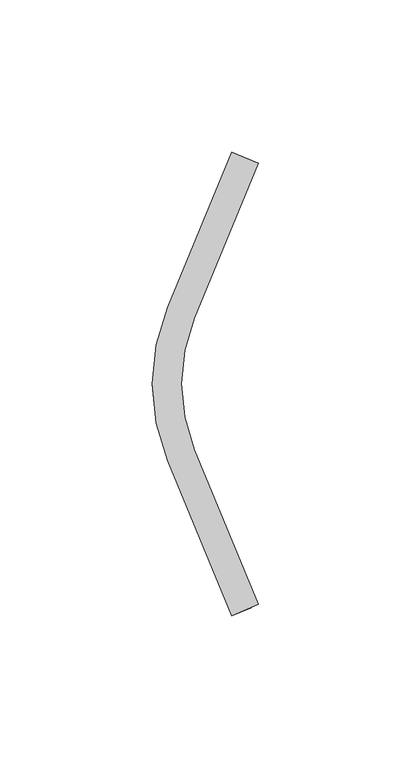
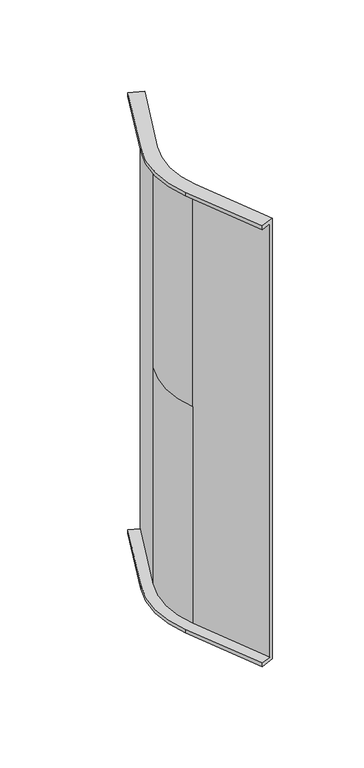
"""IFC4 building model written with IfcOpenShell, lengths in millimetres: cable carrier fitting geometry, CCT_Hyperline_FBTR-IRS45-CVR Крышка на вертикальный угол 45° внутренний (вверх) для оптического лотка : Крышка на вертикальный угол 45° внутренний (вверх) для оптического лотка."""

from ifc_helpers import new_model, si_unit, frame, origin, place, context, project, spatial, polyline, circle_curve, source, transform, mapped, element, save
from ifc_brep_helpers import plane_surface, cylinder_surface, revolved_surface, advanced_brep


def cable_carrier_fitting_ac56a8e3(model_context):
    return source(origin(), model_context, "Body", "AdvancedBrep", [
        advanced_brep(
        [(117.653346, 73.3916968, 150.0), (111.1861893, 76.0704808, 150.0), (111.1861893, 76.0704808, 152.54), (120.0, 72.4196809, 152.54), (120.0, 72.4196809, -152.54), (111.1861893, 76.0704808, -152.54), (111.1861893, 76.0704808, -150.0), (117.653346, 73.3916968, -150.0), (90.1386005, 25.2571065, -150.0), (90.1386005, -25.2571065, -150.0), (111.1861893, -76.0704808, -150.0), (117.653346, -73.3916968, -150.0), (96.6057572, -22.5783225, -150.0), (96.6057572, 22.5783225, -150.0), (90.1386005, 25.2571065, -152.54), (98.9524112, 21.6063066, -152.54), (98.9524112, -21.6063066, -152.54), (120.0, -72.4196809, -152.54), (111.1861893, -76.0704808, -152.54), (90.1386005, -25.2571065, -152.54), (98.9524112, 21.6063066, 152.54), (98.9524112, 21.6063066, 0.0), (96.6057572, 22.5783225, 0.0), (96.6057572, 22.5783225, 150.0), (120.0, -72.4196809, 152.54), (111.1861893, -76.0704808, 152.54), (111.1861893, -76.0704808, 150.0), (117.653346, -73.3916968, 150.0), (98.9524112, -21.6063066, 0.0), (96.6057572, -22.5783225, 0.0), (98.9524112, -21.6063066, 152.54), (96.6057572, -22.5783225, 150.0), (90.1386005, -25.2571065, 150.0), (90.1386005, 25.2571065, 150.0), (90.1386005, 25.2571065, 152.54), (90.1386005, -25.2571065, 152.54)],
        [
            (0, 1),
            (1, 2),
            (2, 3),
            (3, 4),
            (4, 5),
            (5, 6),
            (6, 7),
            (7, 0),
            (6, 8),
            (8, 9, circle_curve(frame((151.1146496, 0.0, -150.0), z_axis=(0.0, 0.0, 1.0), x_axis=(-0.9238795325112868, 0.38268343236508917, 0.0)), 66.0)),
            (9, 10),
            (10, 11),
            (11, 12),
            (12, 13, circle_curve(frame((151.1146496, 0.0, -150.0), z_axis=(0.0, 0.0, -1.0), x_axis=(-0.9238795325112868, 0.38268343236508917, 0.0)), 59.0)),
            (13, 7),
            (5, 14),
            (14, 8),
            (4, 15),
            (15, 16, circle_curve(frame((151.1146496, 0.0, -152.54), z_axis=(0.0, 0.0, 1.0), x_axis=(-0.9238795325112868, 0.38268343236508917, 0.0)), 56.46)),
            (16, 17),
            (17, 18),
            (18, 19),
            (19, 14, circle_curve(frame((151.1146496, 0.0, -152.54), z_axis=(0.0, 0.0, -1.0), x_axis=(-0.9238795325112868, 0.38268343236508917, 0.0)), 66.0)),
            (3, 20),
            (20, 21),
            (21, 15),
            (13, 22),
            (22, 23),
            (23, 0),
            (10, 18),
            (17, 24),
            (24, 25),
            (25, 26),
            (26, 27),
            (27, 11),
            (19, 9),
            (21, 28, circle_curve(frame((151.1146496, 0.0, 0.0), z_axis=(0.0, 0.0, 1.0), x_axis=(-0.9238795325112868, 0.38268343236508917, 0.0)), 56.46)),
            (28, 16),
            (12, 29),
            (29, 22, circle_curve(frame((151.1146496, 0.0, 0.0), z_axis=(0.0, 0.0, -1.0), x_axis=(-0.9238795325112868, 0.38268343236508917, 0.0)), 59.0)),
            (28, 30),
            (30, 24),
            (27, 31),
            (31, 29),
            (23, 31, circle_curve(frame((151.1146496, 0.0, 150.0), z_axis=(0.0, 0.0, 1.0), x_axis=(-0.9238795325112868, 0.38268343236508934, 0.0)), 59.0)),
            (26, 32),
            (32, 33, circle_curve(frame((151.1146496, 0.0, 150.0), z_axis=(0.0, 0.0, -1.0), x_axis=(-0.9238795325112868, 0.38268343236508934, 0.0)), 66.0)),
            (33, 1),
            (33, 34),
            (34, 2),
            (34, 35, circle_curve(frame((151.1146496, 0.0, 152.54), z_axis=(0.0, 0.0, 1.0), x_axis=(-0.9238795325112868, 0.38268343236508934, 0.0)), 66.0)),
            (35, 25),
            (30, 20, circle_curve(frame((151.1146496, 0.0, 152.54), z_axis=(0.0, 0.0, -1.0), x_axis=(-0.9238795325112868, 0.38268343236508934, 0.0)), 56.46)),
            (32, 35),
        ],
        [
            plane_surface(frame((115.8055869, 74.1570637, -55.0), z_axis=(0.38268343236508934, 0.923879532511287, 0.0), x_axis=(0.0, 0.0, 1.0))),
            plane_surface(frame((111.1861893, 76.0704808, -150.0), z_axis=(0.0, 0.0, 1.0), x_axis=(-0.3826834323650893, -0.923879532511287, 0.0))),
            plane_surface(frame((111.1861893, 76.0704808, -152.54), z_axis=(-0.923879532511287, 0.38268343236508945, 0.0), x_axis=(-0.38268343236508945, -0.923879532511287, 0.0))),
            plane_surface(frame((120.0, 72.4196809, -152.54), z_axis=(0.0, 0.0, -1.0), x_axis=(-0.3826834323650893, -0.923879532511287, 0.0))),
            plane_surface(frame((120.0, 72.4196809, 0.0), z_axis=(0.923879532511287, -0.3826834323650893, 0.0), x_axis=(-0.3826834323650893, -0.923879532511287, 0.0))),
            plane_surface(frame((117.653346, 73.3916968, -150.0), z_axis=(-0.923879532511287, 0.3826834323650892, 0.0), x_axis=(-0.3826834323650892, -0.923879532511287, 0.0))),
            plane_surface(frame((115.8055869, -74.1570637, -55.0), z_axis=(0.38268343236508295, -0.9238795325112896, 0.0), x_axis=(0.0, 0.0, 1.0))),
            cylinder_surface(frame((151.1146496, 0.0, -55.0), z_axis=(0.0, 0.0, 1.0), x_axis=(-0.9238795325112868, 0.38268343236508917, 0.0)), 66.0),
            revolved_surface(polyline([(98.95241119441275, 21.606306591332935, 0.0), (98.95241119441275, 21.606306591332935, -152.54)]), (151.1146496, 0.0, -55.0), (0.0, 0.0, 1.0)),
            cylinder_surface(frame((151.1146496, 0.0, -55.0), z_axis=(0.0, 0.0, 1.0), x_axis=(-0.9238795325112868, 0.38268343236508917, 0.0)), 59.0),
            plane_surface(frame((90.1386005, -25.2571065, -152.54), z_axis=(-0.9238795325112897, -0.38268343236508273, 0.0), x_axis=(0.38268343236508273, -0.9238795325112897, 0.0))),
            plane_surface(frame((98.9524112, -21.6063066, 0.0), z_axis=(0.9238795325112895, 0.38268343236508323, 0.0), x_axis=(0.38268343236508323, -0.9238795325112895, 0.0))),
            plane_surface(frame((96.6057572, -22.5783225, -150.0), z_axis=(-0.9238795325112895, -0.38268343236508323, 0.0), x_axis=(0.38268343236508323, -0.9238795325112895, 0.0))),
            plane_surface(frame((117.653346, 73.3916968, 150.0), z_axis=(0.0, 0.0, -1.0), x_axis=(-0.3826834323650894, -0.923879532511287, 0.0))),
            plane_surface(frame((111.1861893, 76.0704808, 150.0), z_axis=(-0.923879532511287, 0.3826834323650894, 0.0), x_axis=(-0.3826834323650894, -0.923879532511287, 0.0))),
            plane_surface(frame((111.1861893, 76.0704808, 152.54), z_axis=(0.0, 0.0, 1.0), x_axis=(-0.38268343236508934, -0.923879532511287, 0.0))),
            cylinder_surface(frame((151.1146496, 0.0, 60.0), z_axis=(0.0, 0.0, 1.0), x_axis=(-0.9238795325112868, 0.38268343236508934, 0.0)), 66.0),
            revolved_surface(polyline([(98.95241119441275, 21.606306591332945, 152.54), (98.95241119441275, 21.606306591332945, 0.0)]), (151.1146496, 0.0, 60.0), (0.0, 0.0, 1.0)),
            cylinder_surface(frame((151.1146496, 0.0, 60.0), z_axis=(0.0, 0.0, 1.0), x_axis=(-0.9238795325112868, 0.38268343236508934, 0.0)), 59.0),
            plane_surface(frame((90.1386005, -25.2571065, 150.0), z_axis=(-0.92387953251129, -0.3826834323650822, 0.0), x_axis=(0.3826834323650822, -0.92387953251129, 0.0))),
        ],
        [
            (0, [[1, 2, 3, 4, 5, 6, 7, 8]]),
            (1, [[-7, 9, 10, 11, 12, 13, 14, 15]]),
            (2, [[-6, 16, 17, -9]]),
            (3, [[-5, 18, 19, 20, 21, 22, 23, -16]]),
            (4, [[-4, 24, 25, 26, -18]]),
            (5, [[-8, -15, 27, 28, 29]]),
            (6, [[-12, 30, -21, 31, 32, 33, 34, 35]]),
            (7, [[-10, -17, -23, 36]]),
            (8, [[-19, -26, 37, 38]]),
            (9, [[-14, 39, 40, -27]]),
            (10, [[-11, -36, -22, -30]]),
            (11, [[-31, -20, -38, 41, 42]]),
            (12, [[-13, -35, 43, 44, -39]]),
            (13, [[-1, -29, 45, -43, -34, 46, 47, 48]]),
            (14, [[-2, -48, 49, 50]]),
            (15, [[-3, -50, 51, 52, -32, -42, 53, -24]]),
            (16, [[-47, 54, -51, -49]]),
            (17, [[-53, -41, -37, -25]]),
            (18, [[-45, -28, -40, -44]]),
            (19, [[-46, -33, -52, -54]]),
        ],
    ),
    ])


if __name__ == "__main__":
    model = new_model("IFC4")
    model_context = context("Model", 3, world=origin())
    ifc_project = project(units=[si_unit("LENGTHUNIT", "METRE", prefix="MILLI")], contexts=[model_context])
    site = spatial("IfcSite", under=ifc_project)
    building = spatial("IfcBuilding", under=site)
    placement = place(None, origin())
    cable_carrier_fitting_shape = cable_carrier_fitting_ac56a8e3(model_context)
    element("IfcCableCarrierFitting", 1, ObjectType="CCT_Hyperline_FBTR-IRS45-CVR Крышка на вертикальный угол 45° внутренний (вверх) для оптического лотка : Крышка на вертикальный угол 45° внутренний (вверх) для оптического лотка", at=placement, inside=building, context=model_context, shape_type="MappedRepresentation", body=[
        mapped(cable_carrier_fitting_shape, transform((0.0, 0.0, 0.0), x_axis=(1.0, 0.0, 0.0), y_axis=(0.0, 1.0, 0.0), z_axis=(0.0, 0.0, 1.0))),
    ])
    save(model, "model.ifc")
